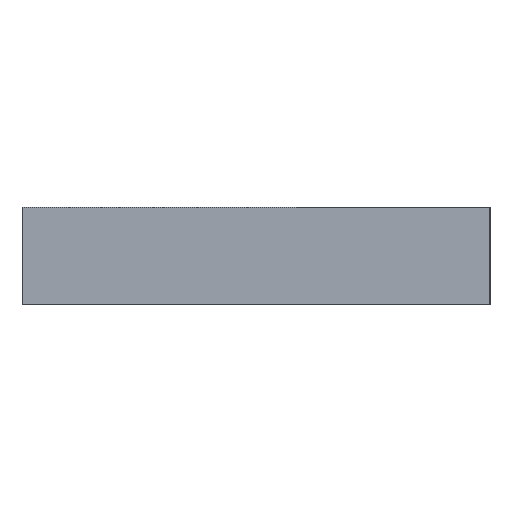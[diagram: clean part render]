
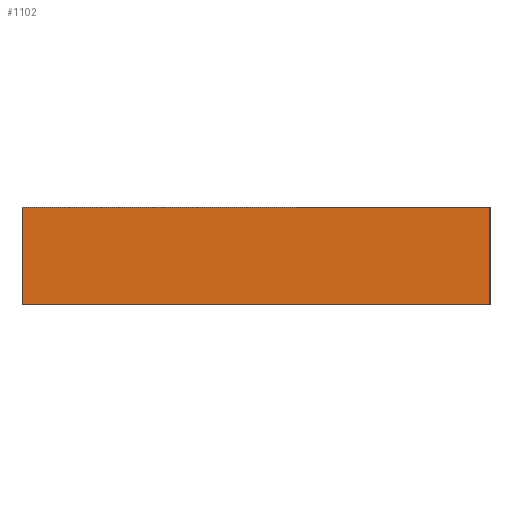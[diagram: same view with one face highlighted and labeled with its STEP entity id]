
A CAD part, left-side view. The second image highlights one B-rep face of the part: STEP entity #1102.
In plain terms, the highlighted planar face has unit normal (-1, 0, 0).
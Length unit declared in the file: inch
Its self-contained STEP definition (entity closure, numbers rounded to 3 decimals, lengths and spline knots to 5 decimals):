
#132=FACE_OUTER_BOUND('',#197,.T.);
#197=EDGE_LOOP('',(#1002,#1003,#1004,#1005,#1006,#1007,#1008,#1009));
#228=LINE('',#1571,#328);
#240=LINE('',#1598,#340);
#242=LINE('',#1602,#342);
#253=LINE('',#1640,#353);
#261=LINE('',#1663,#361);
#314=LINE('',#1850,#414);
#318=LINE('',#1856,#418);
#323=LINE('',#1886,#423);
#328=VECTOR('',#1238,0.3937);
#340=VECTOR('',#1260,0.3937);
#342=VECTOR('',#1264,0.3937);
#353=VECTOR('',#1293,0.3937);
#361=VECTOR('',#1309,0.3937);
#414=VECTOR('',#1510,0.3937);
#418=VECTOR('',#1516,0.3937);
#423=VECTOR('',#1555,0.3937);
#428=VERTEX_POINT('',#1568);
#429=VERTEX_POINT('',#1570);
#439=VERTEX_POINT('',#1596);
#440=VERTEX_POINT('',#1600);
#458=VERTEX_POINT('',#1639);
#469=VERTEX_POINT('',#1661);
#521=VERTEX_POINT('',#1846);
#523=VERTEX_POINT('',#1849);
#536=EDGE_CURVE('',#429,#428,#228,.T.);
#550=EDGE_CURVE('',#439,#429,#240,.T.);
#552=EDGE_CURVE('',#428,#440,#242,.T.);
#571=EDGE_CURVE('',#439,#458,#253,.T.);
#583=EDGE_CURVE('',#469,#440,#261,.T.);
#673=EDGE_CURVE('',#523,#521,#314,.T.);
#677=EDGE_CURVE('',#469,#523,#318,.T.);
#690=EDGE_CURVE('',#458,#521,#323,.T.);
#1002=ORIENTED_EDGE('',*,*,#552,.T.);
#1003=ORIENTED_EDGE('',*,*,#583,.F.);
#1004=ORIENTED_EDGE('',*,*,#677,.T.);
#1005=ORIENTED_EDGE('',*,*,#673,.T.);
#1006=ORIENTED_EDGE('',*,*,#690,.F.);
#1007=ORIENTED_EDGE('',*,*,#571,.F.);
#1008=ORIENTED_EDGE('',*,*,#550,.T.);
#1009=ORIENTED_EDGE('',*,*,#536,.T.);
#1045=PLANE('',#1230);
#1102=ADVANCED_FACE('',(#132),#1045,.T.);
#1230=AXIS2_PLACEMENT_3D('',#1889,#1559,#1560);
#1238=DIRECTION('',(0.,1.,0.));
#1260=DIRECTION('',(0.,0.,-1.));
#1264=DIRECTION('',(0.,0.,1.));
#1293=DIRECTION('',(0.,-1.,0.));
#1309=DIRECTION('',(0.,-1.,0.));
#1510=DIRECTION('',(0.,-1.,0.));
#1516=DIRECTION('',(0.,0.,-1.));
#1555=DIRECTION('',(0.,0.,-1.));
#1559=DIRECTION('center_axis',(-1.,0.,0.));
#1560=DIRECTION('ref_axis',(0.,1.,0.));
#1568=CARTESIAN_POINT('',(-3.,-0.4,-0.002));
#1570=CARTESIAN_POINT('',(-3.,-1.1151,-0.002));
#1571=CARTESIAN_POINT('',(-3.,-0.37878,-0.002));
#1596=CARTESIAN_POINT('',(-3.,-1.1151,0.));
#1598=CARTESIAN_POINT('',(-3.,-1.1151,0.));
#1600=CARTESIAN_POINT('',(-3.,-0.4,0.));
#1602=CARTESIAN_POINT('',(-3.,-0.4,0.));
#1639=CARTESIAN_POINT('',(-3.,-2.4,0.));
#1640=CARTESIAN_POINT('',(-3.,2.4,0.));
#1661=CARTESIAN_POINT('',(-3.,2.4,0.));
#1663=CARTESIAN_POINT('',(-3.,2.4,0.));
#1846=CARTESIAN_POINT('',(-3.,-2.4,-1.));
#1849=CARTESIAN_POINT('',(-3.,2.4,-1.));
#1850=CARTESIAN_POINT('',(-3.,2.4,-1.));
#1856=CARTESIAN_POINT('',(-3.,2.4,0.));
#1886=CARTESIAN_POINT('',(-3.,-2.4,0.));
#1889=CARTESIAN_POINT('Origin',(-3.,0.,0.));
